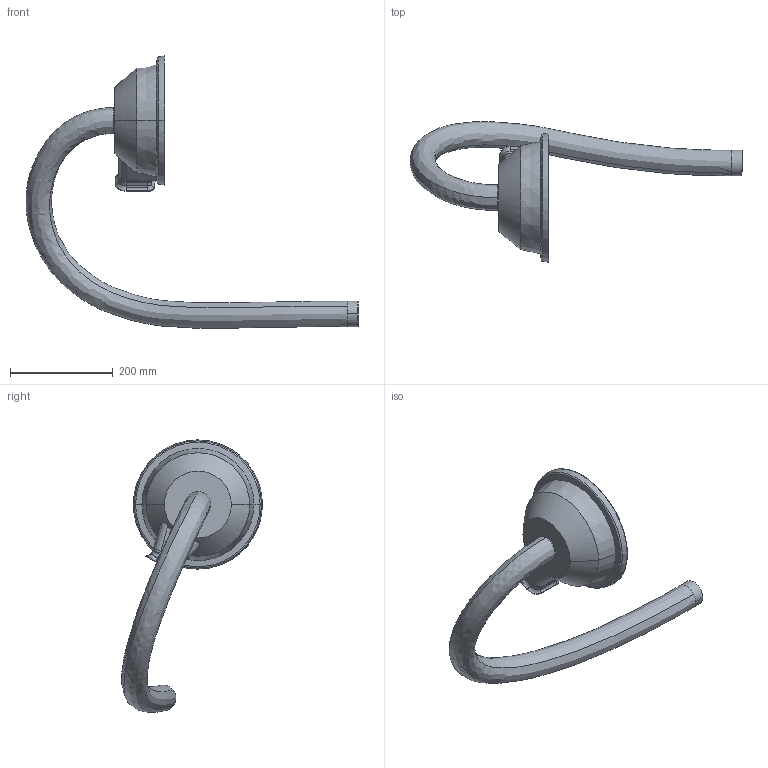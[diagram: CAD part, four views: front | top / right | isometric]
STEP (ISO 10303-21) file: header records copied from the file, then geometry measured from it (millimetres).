
FILE_DESCRIPTION (( 'STEP AP214' ), '1' );
FILE_NAME ('IRB6730-LID-SW_190kg-310_OC_00_LINK03b_CABLE.step', '2026-05-26T09:14:01', ( '' ), ( '' ), 'SwSTEP 2.0', 'SolidWorks 2024', '' );
FILE_SCHEMA (( 'AUTOMOTIVE_DESIGN' ));
Length unit declared in the file: millimetre
Products named in the file (1): IRB6730-LID-SW_190kg-310_OC_00_LINK03b_CABLE
Bounding box: 645.34 x 274.1 x 529.23 mm (x, y, z)
Volume: 5191734.9 mm3; surface area: 308282.1 mm2
Topology: 1 solids, 1 shells, 108 faces, 273 edges, 168 vertices
Faces by surface type: bspline 33, cylinder 28, plane 18, torus 15, cone 14
Entity records: 6828 total; most frequent: CARTESIAN_POINT 4519, ORIENTED_EDGE 546, DIRECTION 397, EDGE_CURVE 273, VERTEX_POINT 168, AXIS2_PLACEMENT_3D 165, EDGE_LOOP 109, FACE_OUTER_BOUND 108
